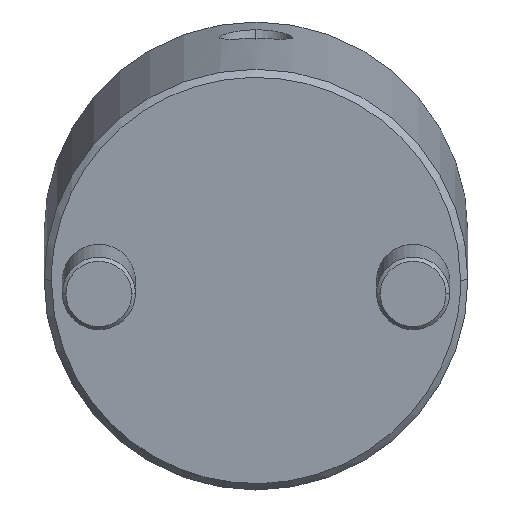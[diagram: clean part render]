
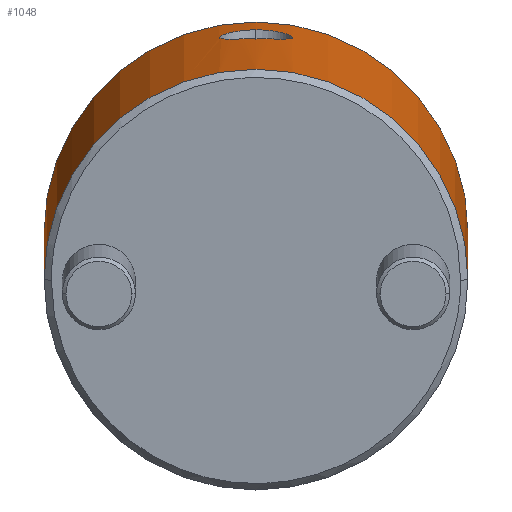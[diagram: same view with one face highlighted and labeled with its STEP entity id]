
A CAD part, front view. The second image highlights one B-rep face of the part: STEP entity #1048.
In plain terms, the highlighted cylindrical face has radius 29 mm (diameter 58 mm), a partial arc.
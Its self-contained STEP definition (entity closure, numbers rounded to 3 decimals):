
#778=CARTESIAN_POINT('Vertex',(0.,29.,1.)) ;
#781=CARTESIAN_POINT('Axis2P3D Location',(0.,0.,1.)) ;
#785=CARTESIAN_POINT('Vertex',(0.,-29.,1.)) ;
#937=CARTESIAN_POINT('Axis2P3D Location',(0.,0.,-2.75)) ;
#942=CARTESIAN_POINT('Line Origine',(0.,29.,-2.75)) ;
#946=CARTESIAN_POINT('Vertex',(0.,29.,54.)) ;
#949=CARTESIAN_POINT('Axis2P3D Location',(0.,0.,54.)) ;
#953=CARTESIAN_POINT('Vertex',(0.,-29.,54.)) ;
#956=CARTESIAN_POINT('Line Origine',(0.,-29.,-2.75)) ;
#968=CARTESIAN_POINT('Control Point',(29.,0.,45.192)) ;
#969=CARTESIAN_POINT('Control Point',(29.,0.432,45.192)) ;
#970=CARTESIAN_POINT('Control Point',(28.992,0.86,45.145)) ;
#971=CARTESIAN_POINT('Control Point',(28.976,1.284,45.049)) ;
#972=CARTESIAN_POINT('Control Point',(28.942,1.899,44.838)) ;
#973=CARTESIAN_POINT('Control Point',(28.895,2.472,44.529)) ;
#974=CARTESIAN_POINT('Control Point',(28.879,2.66,44.414)) ;
#975=CARTESIAN_POINT('Control Point',(28.844,3.021,44.165)) ;
#976=CARTESIAN_POINT('Control Point',(28.806,3.354,43.877)) ;
#977=CARTESIAN_POINT('Control Point',(28.787,3.513,43.724)) ;
#978=CARTESIAN_POINT('Control Point',(28.739,3.89,43.318)) ;
#979=CARTESIAN_POINT('Control Point',(28.694,4.211,42.864)) ;
#980=CARTESIAN_POINT('Control Point',(28.668,4.38,42.576)) ;
#981=CARTESIAN_POINT('Control Point',(28.614,4.721,41.876)) ;
#982=CARTESIAN_POINT('Control Point',(28.579,4.924,41.129)) ;
#983=CARTESIAN_POINT('Control Point',(28.567,4.994,40.69)) ;
#984=CARTESIAN_POINT('Control Point',(28.561,5.028,40.032)) ;
#985=CARTESIAN_POINT('Control Point',(28.574,4.955,39.378)) ;
#986=CARTESIAN_POINT('Control Point',(28.58,4.919,39.162)) ;
#987=CARTESIAN_POINT('Control Point',(28.596,4.824,38.737)) ;
#988=CARTESIAN_POINT('Control Point',(28.619,4.684,38.325)) ;
#989=CARTESIAN_POINT('Control Point',(28.633,4.603,38.124)) ;
#990=CARTESIAN_POINT('Control Point',(28.662,4.418,37.729)) ;
#991=CARTESIAN_POINT('Control Point',(28.696,4.192,37.358)) ;
#992=CARTESIAN_POINT('Control Point',(28.714,4.068,37.179)) ;
#993=CARTESIAN_POINT('Control Point',(28.751,3.802,36.834)) ;
#994=CARTESIAN_POINT('Control Point',(28.789,3.499,36.521)) ;
#995=CARTESIAN_POINT('Control Point',(28.808,3.34,36.373)) ;
#996=CARTESIAN_POINT('Control Point',(28.845,3.005,36.094)) ;
#997=CARTESIAN_POINT('Control Point',(28.88,2.64,35.854)) ;
#998=CARTESIAN_POINT('Control Point',(28.897,2.45,35.743)) ;
#999=CARTESIAN_POINT('Control Point',(28.943,1.879,35.45)) ;
#1000=CARTESIAN_POINT('Control Point',(28.977,1.266,35.25)) ;
#1001=CARTESIAN_POINT('Control Point',(28.992,0.846,35.161)) ;
#1002=CARTESIAN_POINT('Control Point',(29.,0.425,35.117)) ;
#1003=CARTESIAN_POINT('Control Point',(29.,0.,35.117)) ;
#1004=CARTESIAN_POINT('Vertex',(29.,0.,45.192)) ;
#1006=CARTESIAN_POINT('Vertex',(29.,0.,35.117)) ;
#1010=CARTESIAN_POINT('Control Point',(29.,0.,35.117)) ;
#1011=CARTESIAN_POINT('Control Point',(29.,-0.219,35.117)) ;
#1012=CARTESIAN_POINT('Control Point',(28.998,-0.438,35.129)) ;
#1013=CARTESIAN_POINT('Control Point',(28.994,-0.654,35.152)) ;
#1014=CARTESIAN_POINT('Control Point',(28.982,-1.087,35.223)) ;
#1015=CARTESIAN_POINT('Control Point',(28.962,-1.509,35.34)) ;
#1016=CARTESIAN_POINT('Control Point',(28.95,-1.716,35.409)) ;
#1017=CARTESIAN_POINT('Control Point',(28.924,-2.122,35.571)) ;
#1018=CARTESIAN_POINT('Control Point',(28.892,-2.509,35.776)) ;
#1019=CARTESIAN_POINT('Control Point',(28.875,-2.697,35.889)) ;
#1020=CARTESIAN_POINT('Control Point',(28.822,-3.238,36.256)) ;
#1021=CARTESIAN_POINT('Control Point',(28.764,-3.712,36.708)) ;
#1022=CARTESIAN_POINT('Control Point',(28.725,-3.995,37.044)) ;
#1023=CARTESIAN_POINT('Control Point',(28.672,-4.359,37.589)) ;
#1024=CARTESIAN_POINT('Control Point',(28.628,-4.629,38.185)) ;
#1025=CARTESIAN_POINT('Control Point',(28.616,-4.707,38.388)) ;
#1026=CARTESIAN_POINT('Control Point',(28.593,-4.842,38.801)) ;
#1027=CARTESIAN_POINT('Control Point',(28.578,-4.931,39.227)) ;
#1028=CARTESIAN_POINT('Control Point',(28.572,-4.964,39.445)) ;
#1029=CARTESIAN_POINT('Control Point',(28.561,-5.029,40.099)) ;
#1030=CARTESIAN_POINT('Control Point',(28.568,-4.986,40.757)) ;
#1031=CARTESIAN_POINT('Control Point',(28.581,-4.911,41.195)) ;
#1032=CARTESIAN_POINT('Control Point',(28.623,-4.666,42.047)) ;
#1033=CARTESIAN_POINT('Control Point',(28.689,-4.244,42.835)) ;
#1034=CARTESIAN_POINT('Control Point',(28.726,-3.992,43.203)) ;
#1035=CARTESIAN_POINT('Control Point',(28.803,-3.411,43.879)) ;
#1036=CARTESIAN_POINT('Control Point',(28.877,-2.708,44.408)) ;
#1037=CARTESIAN_POINT('Control Point',(28.91,-2.329,44.633)) ;
#1038=CARTESIAN_POINT('Control Point',(28.959,-1.65,44.942)) ;
#1039=CARTESIAN_POINT('Control Point',(28.988,-0.925,45.118)) ;
#1040=CARTESIAN_POINT('Control Point',(28.996,-0.618,45.168)) ;
#1041=CARTESIAN_POINT('Control Point',(29.,-0.31,45.192)) ;
#1042=CARTESIAN_POINT('Control Point',(29.,0.,45.192)) ;
#782=DIRECTION('Axis2P3D Direction',(0.,0.,1.)) ;
#938=DIRECTION('Axis2P3D Direction',(0.,-0.,1.)) ;
#939=DIRECTION('Axis2P3D XDirection',(0.,-1.,0.)) ;
#943=DIRECTION('Vector Direction',(0.,0.,1.)) ;
#950=DIRECTION('Axis2P3D Direction',(0.,-0.,1.)) ;
#957=DIRECTION('Vector Direction',(0.,0.,1.)) ;
#783=AXIS2_PLACEMENT_3D('Circle Axis2P3D',#781,#782,$) ;
#940=AXIS2_PLACEMENT_3D('Cylinder Axis2P3D',#937,#938,#939) ;
#951=AXIS2_PLACEMENT_3D('Circle Axis2P3D',#949,#950,$) ;
#962=ORIENTED_EDGE('',*,*,#948,.F.) ;
#963=ORIENTED_EDGE('',*,*,#955,.T.) ;
#964=ORIENTED_EDGE('',*,*,#960,.T.) ;
#965=ORIENTED_EDGE('',*,*,#787,.F.) ;
#1045=ORIENTED_EDGE('',*,*,#1008,.T.) ;
#1046=ORIENTED_EDGE('',*,*,#1043,.T.) ;
#1047=FACE_BOUND('',#1044,.T.) ;
#944=VECTOR('Line Direction',#943,1.) ;
#958=VECTOR('Line Direction',#957,1.) ;
#1048=ADVANCED_FACE('MANIFOLD_SOLID_BREP #1144',(#966,#1047),#941,.T.) ;
#967=B_SPLINE_CURVE_WITH_KNOTS('',5,(#968,#969,#970,#971,#972,#973,#974,#975,#976,#977,#978,#979,#980,#981,#982,#983,#984,#985,#986,#987,#988,#989,#990,#991,#992,#993,#994,#995,#996,#997,#998,#999,#1000,#1001,#1002,#1003),.UNSPECIFIED.,.F.,.U.,(6,3,3,3,3,3,3,3,3,3,3,6),(0.,3.075,4.626,6.186,8.52,11.622,13.164,14.707,16.25,17.799,19.348,22.349),.UNSPECIFIED.) ;
#1009=B_SPLINE_CURVE_WITH_KNOTS('',5,(#1010,#1011,#1012,#1013,#1014,#1015,#1016,#1017,#1018,#1019,#1020,#1021,#1022,#1023,#1024,#1025,#1026,#1027,#1028,#1029,#1030,#1031,#1032,#1033,#1034,#1035,#1036,#1037,#1038,#1039,#1040,#1041,#1042),.UNSPECIFIED.,.F.,.U.,(6,3,3,3,3,3,3,3,3,3,6),(0.,1.549,3.098,4.646,7.739,9.281,10.823,13.925,17.042,20.14,22.346),.UNSPECIFIED.) ;
#784=CIRCLE('generated circle',#783,29.) ;
#952=CIRCLE('generated circle',#951,29.) ;
#941=CYLINDRICAL_SURFACE('generated cylinder',#940,29.) ;
#787=EDGE_CURVE('',#779,#786,#784,.F.) ;
#948=EDGE_CURVE('',#947,#779,#945,.F.) ;
#955=EDGE_CURVE('',#947,#954,#952,.F.) ;
#960=EDGE_CURVE('',#954,#786,#959,.F.) ;
#1008=EDGE_CURVE('',#1005,#1007,#967,.T.) ;
#1043=EDGE_CURVE('',#1007,#1005,#1009,.T.) ;
#961=EDGE_LOOP('',(#962,#963,#964,#965)) ;
#1044=EDGE_LOOP('',(#1045,#1046)) ;
#966=FACE_OUTER_BOUND('',#961,.T.) ;
#945=LINE('Line',#942,#944) ;
#959=LINE('Line',#956,#958) ;
#779=VERTEX_POINT('',#778) ;
#786=VERTEX_POINT('',#785) ;
#947=VERTEX_POINT('',#946) ;
#954=VERTEX_POINT('',#953) ;
#1005=VERTEX_POINT('',#1004) ;
#1007=VERTEX_POINT('',#1006) ;
